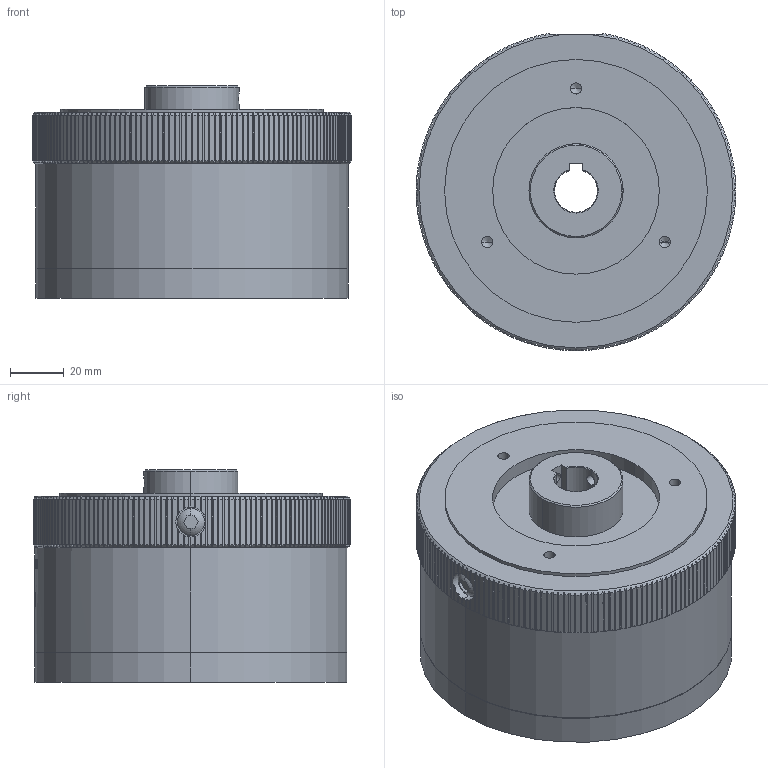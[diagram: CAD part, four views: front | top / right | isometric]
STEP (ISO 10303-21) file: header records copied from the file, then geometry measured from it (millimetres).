
FILE_DESCRIPTION (( 'STEP AP203' ), '1' );
FILE_NAME ('MTL25-16mm CUSTOMER SOLID.STEP', '2014-06-19T20:00:44', ( '' ), ( '' ), 'SwSTEP 2.0', 'SolidWorks 2014', '' );
FILE_SCHEMA (( 'CONFIG_CONTROL_DESIGN' ));
Length unit declared in the file: inch
Products named in the file (1): MTL25-16mm CUSTOMER SOLID
Bounding box: 118.87 x 118.06 x 78.99 mm (x, y, z)
Volume: 712828.3 mm3; surface area: 60010.2 mm2
Topology: 1 solids, 1 shells, 945 faces, 3019 edges, 2118 vertices
Faces by surface type: plane 652, cylinder 266, cone 23, torus 4
Entity records: 39544 total; most frequent: CARTESIAN_POINT 14789, ORIENTED_EDGE 6014, DIRECTION 4091, EDGE_CURVE 3007, VERTEX_POINT 2118, AXIS2_PLACEMENT_3D 1500, B_SPLINE_CURVE_WITH_KNOTS 1298, VECTOR 1091
